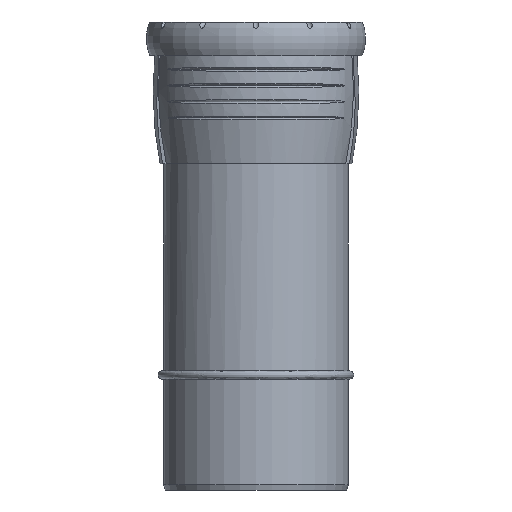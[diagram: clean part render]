
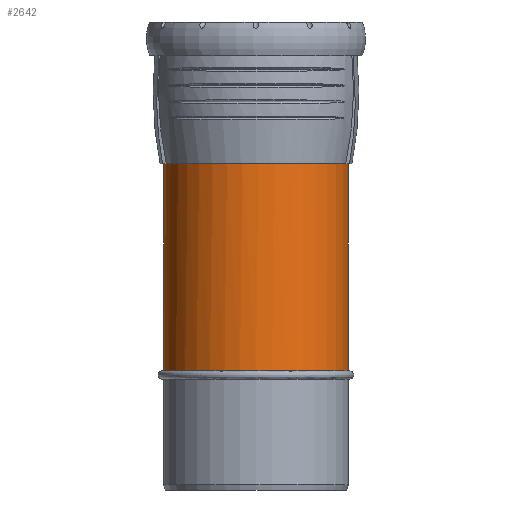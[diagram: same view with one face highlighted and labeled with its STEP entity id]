
A CAD part, left-side view. The second image highlights one B-rep face of the part: STEP entity #2642.
In plain terms, the highlighted cylindrical face has radius 62.6 mm (diameter 125.2 mm), a full revolution.
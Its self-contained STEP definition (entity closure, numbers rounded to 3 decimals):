
#154=B_SPLINE_CURVE_WITH_KNOTS('',3,(#3816,#3817,#3818,#3819),
 .UNSPECIFIED.,.F.,.F.,(4,4),(13.45,13.53),
 .UNSPECIFIED.);
#155=B_SPLINE_CURVE_WITH_KNOTS('',3,(#3825,#3826,#3827,#3828),
 .UNSPECIFIED.,.F.,.F.,(4,4),(7.436,7.516),
 .UNSPECIFIED.);
#156=B_SPLINE_CURVE_WITH_KNOTS('',3,(#3836,#3837,#3838,#3839,#3840,#3841,
#3842,#3843,#3844,#3845,#3846,#3847,#3848,#3849,#3850,#3851,#3852,#3853,
#3854,#3855,#3856,#3857,#3858,#3859,#3860,#3861,#3862,#3863,#3864,#3865,
#3866,#3867,#3868,#3869,#3870,#3871,#3872,#3873,#3874,#3875,#3876,#3877,
#3878,#3879,#3880,#3881,#3882,#3883,#3884,#3885,#3886,#3887,#3888,#3889,
#3890,#3891,#3892,#3893,#3894,#3895,#3896,#3897,#3898,#3899,#3900,#3901,
#3902,#3903,#3904,#3905,#3906,#3907,#3908,#3909,#3910,#3911,#3912,#3913,
#3914),.UNSPECIFIED.,.F.,.F.,(4,2,2,2,2,2,2,3,2,2,2,2,2,2,2,2,2,2,2,2,2,
2,2,2,2,2,2,2,2,2,2,2,2,2,2,2,2,2,4),(-9.993,-9.988,
-8.609,-7.45,-6.292,-3.976,
-1.988,0.,0.556,1.112,1.669,2.225,
2.73,3.234,3.739,4.244,5.335,
6.427,7.518,8.609,9.701,10.792,
11.884,12.975,13.48,13.985,14.489,
14.994,15.55,16.107,16.663,17.219,
19.207,21.194,23.511,24.669,25.827,
27.207,27.212),.UNSPECIFIED.);
#429=FACE_BOUND('',#661,.T.);
#497=FACE_OUTER_BOUND('',#660,.T.);
#660=EDGE_LOOP('',(#1676,#1677,#1678,#1679));
#661=EDGE_LOOP('',(#1680));
#870=CIRCLE('',#2826,62.6);
#872=CIRCLE('',#2831,62.6);
#1003=VERTEX_POINT('',#3812);
#1004=VERTEX_POINT('',#3814);
#1005=VERTEX_POINT('',#3821);
#1007=VERTEX_POINT('',#3824);
#1008=VERTEX_POINT('',#3916);
#1277=EDGE_CURVE('',#1003,#1004,#154,.T.);
#1279=EDGE_CURVE('',#1007,#1005,#155,.T.);
#1282=EDGE_CURVE('',#1005,#1003,#870,.T.);
#1284=EDGE_CURVE('',#1004,#1007,#156,.T.);
#1285=EDGE_CURVE('',#1008,#1008,#872,.T.);
#1676=ORIENTED_EDGE('',*,*,#1279,.T.);
#1677=ORIENTED_EDGE('',*,*,#1282,.T.);
#1678=ORIENTED_EDGE('',*,*,#1277,.T.);
#1679=ORIENTED_EDGE('',*,*,#1284,.T.);
#1680=ORIENTED_EDGE('',*,*,#1285,.F.);
#2404=CYLINDRICAL_SURFACE('',#2830,62.6);
#2642=ADVANCED_FACE('',(#497,#429),#2404,.T.);
#2826=AXIS2_PLACEMENT_3D('',#3832,#3140,#3141);
#2830=AXIS2_PLACEMENT_3D('',#3915,#3148,#3149);
#2831=AXIS2_PLACEMENT_3D('',#3917,#3150,#3151);
#3140=DIRECTION('center_axis',(0.,0.,
-1.));
#3141=DIRECTION('ref_axis',(-1.,0.,0.));
#3148=DIRECTION('center_axis',(0.,0.,
-1.));
#3149=DIRECTION('ref_axis',(0.,-1.,0.));
#3150=DIRECTION('center_axis',(0.,0.,
-1.));
#3151=DIRECTION('ref_axis',(-1.,0.,0.));
#3812=CARTESIAN_POINT('',(57.262,25.294,220.91));
#3814=CARTESIAN_POINT('',(57.034,25.805,220.303));
#3816=CARTESIAN_POINT('Ctrl Pts',(57.262,25.294,220.91));
#3817=CARTESIAN_POINT('Ctrl Pts',(57.186,25.466,220.708));
#3818=CARTESIAN_POINT('Ctrl Pts',(57.11,25.637,220.506));
#3819=CARTESIAN_POINT('Ctrl Pts',(57.034,25.805,220.303));
#3821=CARTESIAN_POINT('',(57.262,-25.294,220.91));
#3824=CARTESIAN_POINT('',(57.034,-25.805,220.303));
#3825=CARTESIAN_POINT('Ctrl Pts',(57.034,-25.805,220.303));
#3826=CARTESIAN_POINT('Ctrl Pts',(57.11,-25.637,220.506));
#3827=CARTESIAN_POINT('Ctrl Pts',(57.186,-25.466,220.708));
#3828=CARTESIAN_POINT('Ctrl Pts',(57.262,-25.294,220.91));
#3832=CARTESIAN_POINT('Origin',(0.,0.,
220.91));
#3836=CARTESIAN_POINT('Ctrl Pts',(57.034,25.805,220.303));
#3837=CARTESIAN_POINT('Ctrl Pts',(57.028,25.817,220.289));
#3838=CARTESIAN_POINT('Ctrl Pts',(57.023,25.829,220.275));
#3839=CARTESIAN_POINT('Ctrl Pts',(55.629,28.904,216.572));
#3840=CARTESIAN_POINT('Ctrl Pts',(54.126,31.557,212.543));
#3841=CARTESIAN_POINT('Ctrl Pts',(51.552,35.579,205.562));
#3842=CARTESIAN_POINT('Ctrl Pts',(50.301,37.321,202.138));
#3843=CARTESIAN_POINT('Ctrl Pts',(47.728,40.56,194.99));
#3844=CARTESIAN_POINT('Ctrl Pts',(46.406,42.057,191.267));
#3845=CARTESIAN_POINT('Ctrl Pts',(42.47,46.145,179.931));
#3846=CARTESIAN_POINT('Ctrl Pts',(39.886,48.326,172.148));
#3847=CARTESIAN_POINT('Ctrl Pts',(35.819,51.394,158.735));
#3848=CARTESIAN_POINT('Ctrl Pts',(33.872,52.675,151.838));
#3849=CARTESIAN_POINT('Ctrl Pts',(30.817,54.519,137.848));
#3850=CARTESIAN_POINT('Ctrl Pts',(29.711,55.1,130.757));
#3851=CARTESIAN_POINT('Ctrl Pts',(29.711,55.1,124.131));
#3852=CARTESIAN_POINT('Ctrl Pts',(29.711,55.1,122.277));
#3853=CARTESIAN_POINT('Ctrl Pts',(29.799,55.053,120.337));
#3854=CARTESIAN_POINT('Ctrl Pts',(30.237,54.814,116.434));
#3855=CARTESIAN_POINT('Ctrl Pts',(30.588,54.621,114.471));
#3856=CARTESIAN_POINT('Ctrl Pts',(31.588,54.049,110.666));
#3857=CARTESIAN_POINT('Ctrl Pts',(32.238,53.668,108.82));
#3858=CARTESIAN_POINT('Ctrl Pts',(33.778,52.712,105.361));
#3859=CARTESIAN_POINT('Ctrl Pts',(34.667,52.137,103.748));
#3860=CARTESIAN_POINT('Ctrl Pts',(36.45,50.904,100.953));
#3861=CARTESIAN_POINT('Ctrl Pts',(37.399,50.216,99.648));
#3862=CARTESIAN_POINT('Ctrl Pts',(39.422,48.645,97.158));
#3863=CARTESIAN_POINT('Ctrl Pts',(40.493,47.761,95.973));
#3864=CARTESIAN_POINT('Ctrl Pts',(42.662,45.835,93.757));
#3865=CARTESIAN_POINT('Ctrl Pts',(43.759,44.791,92.726));
#3866=CARTESIAN_POINT('Ctrl Pts',(45.888,42.607,90.834));
#3867=CARTESIAN_POINT('Ctrl Pts',(46.92,41.467,89.972));
#3868=CARTESIAN_POINT('Ctrl Pts',(49.964,37.852,87.527));
#3869=CARTESIAN_POINT('Ctrl Pts',(51.998,35.041,86.044));
#3870=CARTESIAN_POINT('Ctrl Pts',(55.657,28.878,83.498));
#3871=CARTESIAN_POINT('Ctrl Pts',(57.282,25.527,82.433));
#3872=CARTESIAN_POINT('Ctrl Pts',(59.921,18.501,80.742));
#3873=CARTESIAN_POINT('Ctrl Pts',(60.938,14.82,80.114));
#3874=CARTESIAN_POINT('Ctrl Pts',(62.277,7.388,79.291));
#3875=CARTESIAN_POINT('Ctrl Pts',(62.6,3.638,79.097));
#3876=CARTESIAN_POINT('Ctrl Pts',(62.6,-3.638,79.097));
#3877=CARTESIAN_POINT('Ctrl Pts',(62.277,-7.388,79.291));
#3878=CARTESIAN_POINT('Ctrl Pts',(60.938,-14.82,80.114));
#3879=CARTESIAN_POINT('Ctrl Pts',(59.921,-18.501,80.742));
#3880=CARTESIAN_POINT('Ctrl Pts',(57.282,-25.527,82.433));
#3881=CARTESIAN_POINT('Ctrl Pts',(55.657,-28.878,83.498));
#3882=CARTESIAN_POINT('Ctrl Pts',(51.998,-35.041,86.044));
#3883=CARTESIAN_POINT('Ctrl Pts',(49.964,-37.852,87.527));
#3884=CARTESIAN_POINT('Ctrl Pts',(46.92,-41.467,89.972));
#3885=CARTESIAN_POINT('Ctrl Pts',(45.888,-42.607,90.834));
#3886=CARTESIAN_POINT('Ctrl Pts',(43.759,-44.791,92.726));
#3887=CARTESIAN_POINT('Ctrl Pts',(42.662,-45.835,93.757));
#3888=CARTESIAN_POINT('Ctrl Pts',(40.493,-47.761,95.973));
#3889=CARTESIAN_POINT('Ctrl Pts',(39.422,-48.645,97.158));
#3890=CARTESIAN_POINT('Ctrl Pts',(37.399,-50.216,99.648));
#3891=CARTESIAN_POINT('Ctrl Pts',(36.45,-50.904,100.953));
#3892=CARTESIAN_POINT('Ctrl Pts',(34.667,-52.137,103.748));
#3893=CARTESIAN_POINT('Ctrl Pts',(33.778,-52.712,105.361));
#3894=CARTESIAN_POINT('Ctrl Pts',(32.238,-53.668,108.82));
#3895=CARTESIAN_POINT('Ctrl Pts',(31.588,-54.049,110.666));
#3896=CARTESIAN_POINT('Ctrl Pts',(30.588,-54.621,114.471));
#3897=CARTESIAN_POINT('Ctrl Pts',(30.237,-54.814,116.434));
#3898=CARTESIAN_POINT('Ctrl Pts',(29.799,-55.053,120.337));
#3899=CARTESIAN_POINT('Ctrl Pts',(29.711,-55.1,122.277));
#3900=CARTESIAN_POINT('Ctrl Pts',(29.711,-55.1,130.757));
#3901=CARTESIAN_POINT('Ctrl Pts',(30.817,-54.519,137.848));
#3902=CARTESIAN_POINT('Ctrl Pts',(33.872,-52.675,151.838));
#3903=CARTESIAN_POINT('Ctrl Pts',(35.819,-51.394,158.735));
#3904=CARTESIAN_POINT('Ctrl Pts',(39.886,-48.326,172.148));
#3905=CARTESIAN_POINT('Ctrl Pts',(42.47,-46.145,179.931));
#3906=CARTESIAN_POINT('Ctrl Pts',(46.406,-42.057,191.267));
#3907=CARTESIAN_POINT('Ctrl Pts',(47.728,-40.56,194.99));
#3908=CARTESIAN_POINT('Ctrl Pts',(50.301,-37.321,202.138));
#3909=CARTESIAN_POINT('Ctrl Pts',(51.552,-35.579,205.562));
#3910=CARTESIAN_POINT('Ctrl Pts',(54.126,-31.557,212.543));
#3911=CARTESIAN_POINT('Ctrl Pts',(55.629,-28.904,216.572));
#3912=CARTESIAN_POINT('Ctrl Pts',(57.023,-25.829,220.275));
#3913=CARTESIAN_POINT('Ctrl Pts',(57.028,-25.817,220.289));
#3914=CARTESIAN_POINT('Ctrl Pts',(57.034,-25.805,220.303));
#3915=CARTESIAN_POINT('Origin',(0.,0.,
147.905));
#3916=CARTESIAN_POINT('',(0.,-62.6,74.9));
#3917=CARTESIAN_POINT('Origin',(0.,0.,
74.9));
